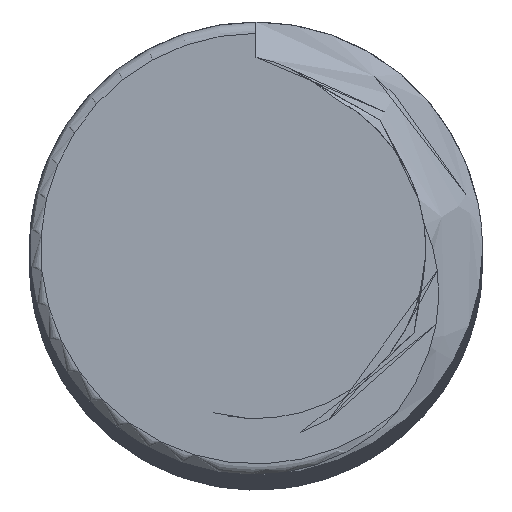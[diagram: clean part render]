
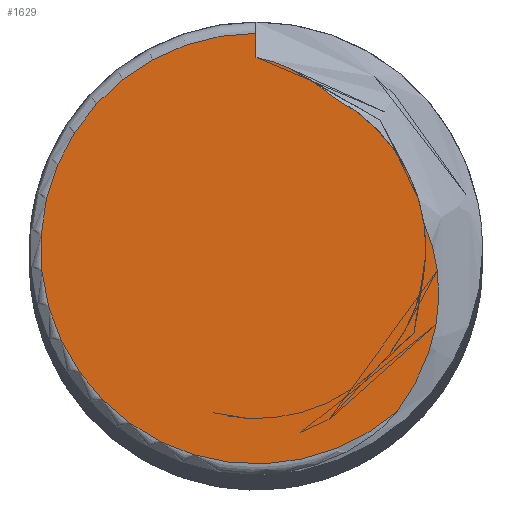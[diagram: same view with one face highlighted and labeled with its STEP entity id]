
A CAD part, top view. The second image highlights one B-rep face of the part: STEP entity #1629.
In plain terms, the highlighted planar face has unit normal (0, 0, 1).
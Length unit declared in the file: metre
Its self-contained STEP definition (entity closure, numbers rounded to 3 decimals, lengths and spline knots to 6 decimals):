
#14=PLANE('',#1654);
#17=CIRCLE('',#1646,0.003);
#21=CIRCLE('',#1653,0.0038);
#26=LINE('',#10787,#29);
#29=VECTOR('',#1676,1.);
#31=B_SPLINE_CURVE_WITH_KNOTS('',3,(#6221,#6222,#6223,#6224),
 .UNSPECIFIED.,.F.,.F.,(4,4),(0.,0.001547),
 .UNSPECIFIED.);
#33=B_SPLINE_CURVE_WITH_KNOTS('',3,(#9271,#9272,#9273,#9274,#9275),
 .UNSPECIFIED.,.F.,.F.,(4,1,4),(0.,0.001751,0.003502),
 .UNSPECIFIED.);
#662=ORIENTED_EDGE('',*,*,#987,.F.);
#663=ORIENTED_EDGE('',*,*,#988,.T.);
#664=ORIENTED_EDGE('',*,*,#831,.T.);
#665=ORIENTED_EDGE('',*,*,#828,.T.);
#666=ORIENTED_EDGE('',*,*,#825,.T.);
#825=EDGE_CURVE('',#989,#1143,#31,.T.);
#828=EDGE_CURVE('',#1144,#989,#17,.T.);
#831=EDGE_CURVE('',#1148,#1144,#33,.T.);
#987=EDGE_CURVE('',#1300,#1143,#26,.T.);
#988=EDGE_CURVE('',#1300,#1148,#21,.T.);
#989=VERTEX_POINT('',#4705);
#1143=VERTEX_POINT('',#6220);
#1144=VERTEX_POINT('',#7425);
#1148=VERTEX_POINT('',#9276);
#1300=VERTEX_POINT('',#10786);
#1611=EDGE_LOOP('',(#662,#663,#664,#665,#666));
#1619=FACE_BOUND('',#1611,.T.);
#1629=ADVANCED_FACE('',(#1619),#14,.T.);
#1646=AXIS2_PLACEMENT_3D('',#7428,#1663,#1664);
#1653=AXIS2_PLACEMENT_3D('',#10789,#1679,#1680);
#1654=AXIS2_PLACEMENT_3D('',#10790,#1681,#1682);
#1663=DIRECTION('',(0.,0.,1.));
#1664=DIRECTION('',(1.,0.,0.));
#1676=DIRECTION('',(0.,-1.,0.));
#1679=DIRECTION('',(0.,0.,1.));
#1680=DIRECTION('',(1.,0.,0.));
#1681=DIRECTION('',(0.,0.,1.));
#1682=DIRECTION('',(1.,0.,0.));
#4705=CARTESIAN_POINT('',(0.001368,0.00267,0.));
#6220=CARTESIAN_POINT('',(0.,0.003375,0.));
#6221=CARTESIAN_POINT('',(0.001368,0.00267,0.));
#6222=CARTESIAN_POINT('',(0.000983,0.003024,0.));
#6223=CARTESIAN_POINT('',(0.000511,0.003266,0.));
#6224=CARTESIAN_POINT('',(0.,0.003375,0.));
#7425=CARTESIAN_POINT('',(0.002966,0.00045,0.));
#7428=CARTESIAN_POINT('',(0.,0.,0.));
#9271=CARTESIAN_POINT('',(0.002491,-0.00287,0.));
#9272=CARTESIAN_POINT('',(0.002846,-0.002396,0.));
#9273=CARTESIAN_POINT('',(0.003352,-0.001301,0.));
#9274=CARTESIAN_POINT('',(0.003207,-0.000091,0.));
#9275=CARTESIAN_POINT('',(0.002966,0.00045,0.));
#9276=CARTESIAN_POINT('',(0.002491,-0.00287,0.));
#10786=CARTESIAN_POINT('',(0.,0.0038,0.));
#10787=CARTESIAN_POINT('',(0.,0.,0.));
#10789=CARTESIAN_POINT('',(0.,0.,0.));
#10790=CARTESIAN_POINT('',(0.,0.,0.));
